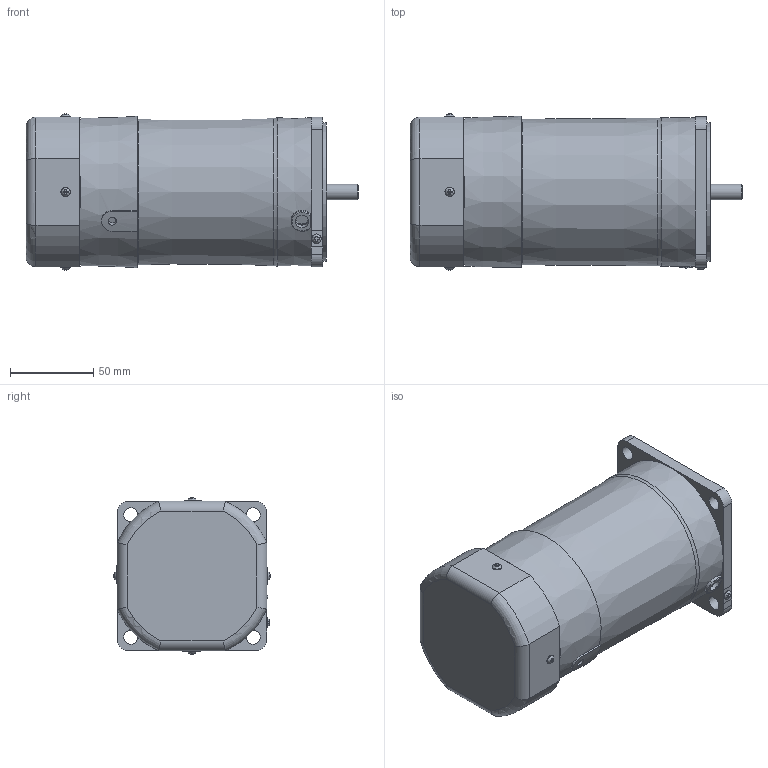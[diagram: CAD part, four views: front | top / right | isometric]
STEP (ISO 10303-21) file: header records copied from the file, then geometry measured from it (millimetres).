
FILE_DESCRIPTION(/* description */ (''),/* implementation_level */ '2;1');
FILE_NAME(/* name */ 'E:\도면작업\2016\0704) 미주향 SG 도면\3D MOTOR\ELECTROMAGNETIC BRAKE\SG9R(I)90G_-E.stp',/* time_stamp */ '2017-03-21T15:20:42+09:00',/* author */ ('jy-jung'),/* organization */ (''),/* preprocessor_version */ 'ST-DEVELOPER v15.6',/* originating_system */ 'Autodesk Inventor 2015',/* authorisation */ '');
FILE_SCHEMA (('AUTOMOTIVE_DESIGN { 1 0 10303 214 3 1 1 }'));
Length unit declared in the file: millimetre
Products named in the file (1): 부품23
Bounding box: 199.4 x 93.89 x 93.89 mm (x, y, z)
Volume: 1138693.7 mm3; surface area: 73946 mm2
Topology: 1 solids, 6 shells, 229 faces, 586 edges, 386 vertices
Faces by surface type: plane 146, cylinder 55, torus 14, cone 8, bspline 5, sphere 1
Full cylindrical faces by diameter (mm): 3 x4, 3.5 x4, 5 x1, 5.6 x5, 8 x1, 8.5 x4, 9.33 x1, 10 x1, 40 x1, 83 x1, 86 x1
Entity records: 7468 total; most frequent: CARTESIAN_POINT 1907, ORIENTED_EDGE 1066, DIRECTION 1034, EDGE_CURVE 533, VERTEX_POINT 375, AXIS2_PLACEMENT_3D 367, EDGE_LOOP 306, LINE 300
